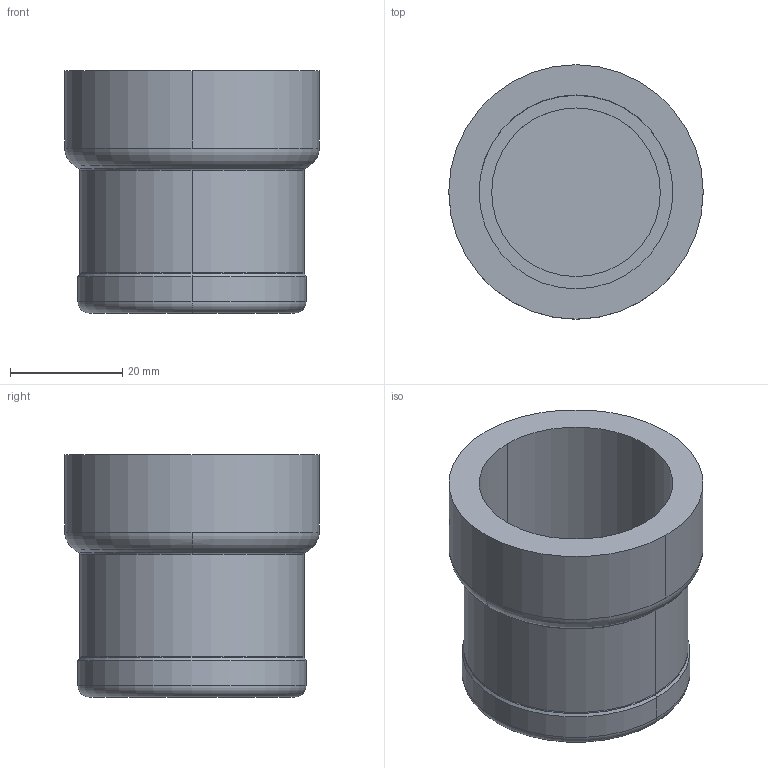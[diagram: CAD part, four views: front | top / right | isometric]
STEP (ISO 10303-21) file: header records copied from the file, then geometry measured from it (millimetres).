
FILE_DESCRIPTION(('Creo Elements/Direct Modeling STEP Export'),'2;1');
FILE_NAME('C9429_1.stp','2020-07-17T11:59:03',(''),(''),'PTC Creo Elements/Direct Modeling STEP processor for AP214 (Solid Model)','PTC Creo Elements/Direct Modeling 19.0C 15-Aug-2015 (C) Parametric Technology GmbH','');
FILE_SCHEMA(('AUTOMOTIVE_DESIGN { 1 0 10303 214 1 1 1 1 }'));
Length unit declared in the file: millimetre
Products named in the file (2): C9429_1
Assembly tree (1 placements, depth 2):
  C9429_1
    C9429_1
Bounding box: 45.4 x 45.4 x 43.2 mm (x, y, z)
Volume: 23354.5 mm3; surface area: 13010.9 mm2
Topology: 1 solids, 1 shells, 26 faces, 54 edges, 32 vertices
Faces by surface type: cylinder 10, torus 8, plane 4, cone 4
Entity records: 657 total; most frequent: DIRECTION 114, ORIENTED_EDGE 108, CARTESIAN_POINT 96, EDGE_CURVE 54, AXIS2_PLACEMENT_3D 50, VERTEX_POINT 32, EDGE_LOOP 28, FACE_OUTER_BOUND 26
